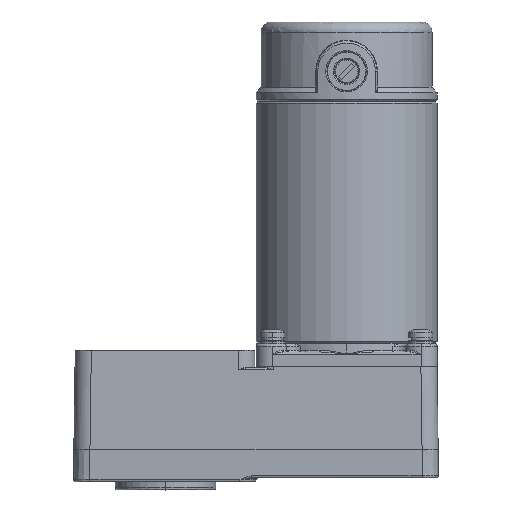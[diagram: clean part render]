
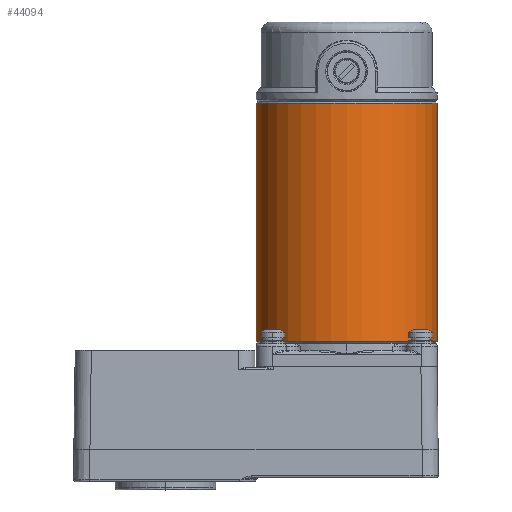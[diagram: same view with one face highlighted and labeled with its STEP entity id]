
A CAD part, left-side view. The second image highlights one B-rep face of the part: STEP entity #44094.
In plain terms, the highlighted cylindrical face has radius 45 mm (diameter 90 mm), a partial arc.
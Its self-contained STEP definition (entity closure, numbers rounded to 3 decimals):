
#116 = EDGE_CURVE ( 'NONE', #21795, #47459, #69358, .T. ) ;
#869 = AXIS2_PLACEMENT_3D ( 'NONE', #48540, #49394, #28347 ) ;
#1583 = DIRECTION ( 'NONE',  ( 0., 0., 1. ) ) ;
#6526 = CIRCLE ( 'NONE', #869, 45. ) ;
#11305 = CARTESIAN_POINT ( 'NONE',  ( -7.759, 0., 0. ) ) ;
#15497 = LINE ( 'NONE', #82682, #71598 ) ;
#19142 = CARTESIAN_POINT ( 'NONE',  ( -7.759, 0.828, 45. ) ) ;
#21557 = CARTESIAN_POINT ( 'NONE',  ( -7.759, 0.828, 0. ) ) ;
#21795 = VERTEX_POINT ( 'NONE', #19142 ) ;
#22498 = DIRECTION ( 'NONE',  ( 0., 1., 0. ) ) ;
#23797 = EDGE_CURVE ( 'NONE', #47459, #50280, #60395, .T. ) ;
#25261 = VERTEX_POINT ( 'NONE', #63670 ) ;
#25338 = AXIS2_PLACEMENT_3D ( 'NONE', #69208, #61712, #1583 ) ;
#27290 = AXIS2_PLACEMENT_3D ( 'NONE', #21557, #49636, #42613 ) ;
#27875 = CARTESIAN_POINT ( 'NONE',  ( -7.759, 119.172, 45. ) ) ;
#28347 = DIRECTION ( 'NONE',  ( 0., 0., 1. ) ) ;
#30190 = CYLINDRICAL_SURFACE ( 'NONE', #59542, 45. ) ;
#34324 = ORIENTED_EDGE ( 'NONE', *, *, #83445, .T. ) ;
#34640 = EDGE_LOOP ( 'NONE', ( #62345, #34324, #58576, #58453, #84773 ) ) ;
#41558 = CARTESIAN_POINT ( 'NONE',  ( -7.759, 119.172, -45. ) ) ;
#42613 = DIRECTION ( 'NONE',  ( 0., 0., 1. ) ) ;
#43804 = DIRECTION ( 'NONE',  ( 0., 0., 1. ) ) ;
#44094 = ADVANCED_FACE ( 'NONE', ( #71477 ), #30190, .T. ) ;
#45519 = CIRCLE ( 'NONE', #27290, 45. ) ;
#47459 = VERTEX_POINT ( 'NONE', #27875 ) ;
#48540 = CARTESIAN_POINT ( 'NONE',  ( -7.759, 0.828, 0. ) ) ;
#48791 = EDGE_CURVE ( 'NONE', #25261, #50280, #15497, .T. ) ;
#49394 = DIRECTION ( 'NONE',  ( 0., 1., 0. ) ) ;
#49636 = DIRECTION ( 'NONE',  ( 0., 1., 0. ) ) ;
#50006 = CARTESIAN_POINT ( 'NONE',  ( -7.759, 0., 45. ) ) ;
#50280 = VERTEX_POINT ( 'NONE', #41558 ) ;
#50565 = CARTESIAN_POINT ( 'NONE',  ( -52.759, 0.828, 0. ) ) ;
#58453 = ORIENTED_EDGE ( 'NONE', *, *, #116, .T. ) ;
#58576 = ORIENTED_EDGE ( 'NONE', *, *, #60421, .T. ) ;
#59542 = AXIS2_PLACEMENT_3D ( 'NONE', #11305, #63551, #43804 ) ;
#60395 = CIRCLE ( 'NONE', #25338, 45. ) ;
#60421 = EDGE_CURVE ( 'NONE', #86483, #21795, #6526, .T. ) ;
#61712 = DIRECTION ( 'NONE',  ( 0., -1., 0. ) ) ;
#62345 = ORIENTED_EDGE ( 'NONE', *, *, #48791, .F. ) ;
#63551 = DIRECTION ( 'NONE',  ( 0., 1., 0. ) ) ;
#63670 = CARTESIAN_POINT ( 'NONE',  ( -7.759, 0.828, -45. ) ) ;
#69208 = CARTESIAN_POINT ( 'NONE',  ( -7.759, 119.172, 0. ) ) ;
#69358 = LINE ( 'NONE', #50006, #72859 ) ;
#71477 = FACE_OUTER_BOUND ( 'NONE', #34640, .T. ) ;
#71598 = VECTOR ( 'NONE', #22498, 1000. ) ;
#72859 = VECTOR ( 'NONE', #77252, 1000. ) ;
#77252 = DIRECTION ( 'NONE',  ( 0., 1., 0. ) ) ;
#82682 = CARTESIAN_POINT ( 'NONE',  ( -7.759, 0., -45. ) ) ;
#83445 = EDGE_CURVE ( 'NONE', #25261, #86483, #45519, .T. ) ;
#84773 = ORIENTED_EDGE ( 'NONE', *, *, #23797, .T. ) ;
#86483 = VERTEX_POINT ( 'NONE', #50565 ) ;
